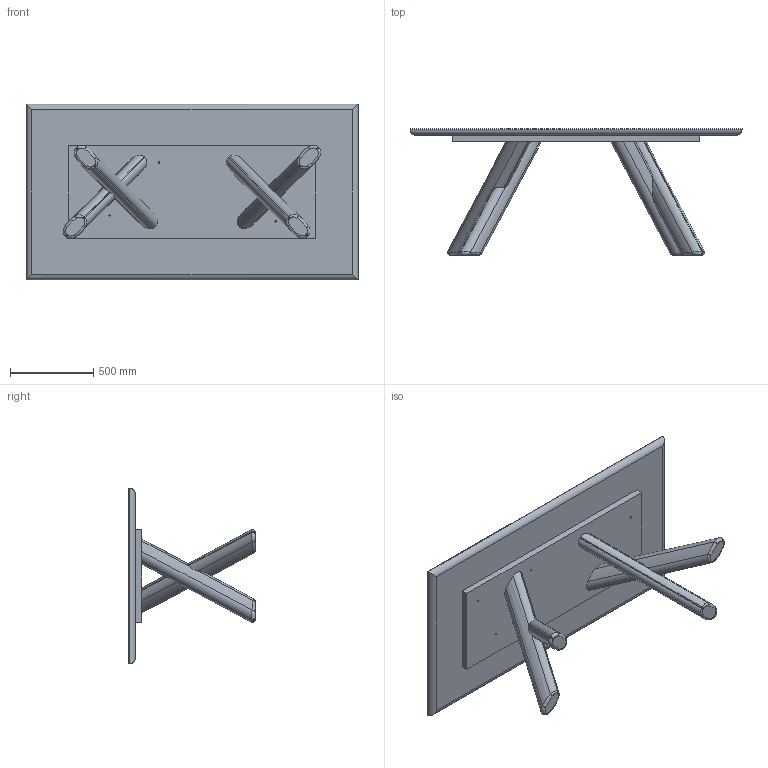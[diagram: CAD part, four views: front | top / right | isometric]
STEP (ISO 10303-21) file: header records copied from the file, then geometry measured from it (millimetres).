
FILE_DESCRIPTION (( 'STEP AP203' ), '1' );
FILE_NAME ('CN21W_CANOVA_top legno 200x106x76h.STEP', '2025-04-15T07:12:57', ( '' ), ( '' ), 'SwSTEP 2.0', 'SolidWorks 2022', '' );
FILE_SCHEMA (( 'CONFIG_CONTROL_DESIGN' ));
Length unit declared in the file: millimetre
Products named in the file (5): CN21W_CANOVA_top legno 200x106x76h; CAMP_00057-00-Gamba in legno Esterna_leggero; CAMP_00058-00-Gamba in legno Interna_leggero; CAMP_00056-00-Assieme Basamento con gambe in legno incrociate_leggero; PIANI_modello 3D x web_Legno 200x106
Assembly tree (5 placements, depth 3):
  CN21W_CANOVA_top legno 200x106x76h
    PIANI_modello 3D x web_Legno 200x106
    CAMP_00056-00-Assieme Basamento con gambe in legno incrociate_leggero  x2
      CAMP_00057-00-Gamba in legno Esterna_leggero
      CAMP_00058-00-Gamba in legno Interna_leggero
Bounding box: 2000 x 760 x 1060 mm (x, y, z)
Volume: 150354791.7 mm3; surface area: 7670497.7 mm2
Topology: 6 solids, 6 shells, 164 faces, 394 edges, 248 vertices
Faces by surface type: cylinder 94, bspline 36, plane 26, cone 8
Entity records: 4304 total; most frequent: CARTESIAN_POINT 1600, ORIENTED_EDGE 486, DIRECTION 417, EDGE_CURVE 243, AXIS2_PLACEMENT_3D 165, VERTEX_POINT 154, EDGE_LOOP 123, ADVANCED_FACE 100
